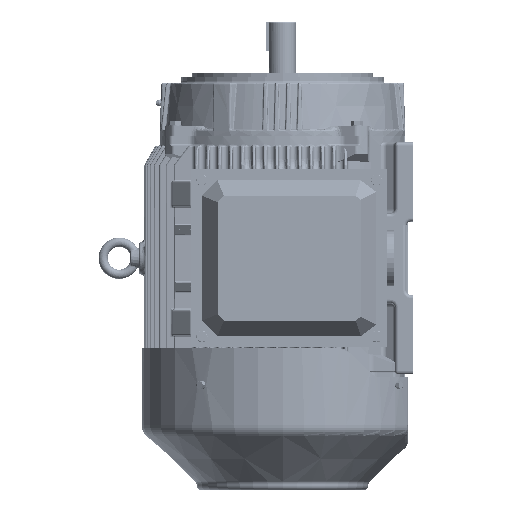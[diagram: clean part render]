
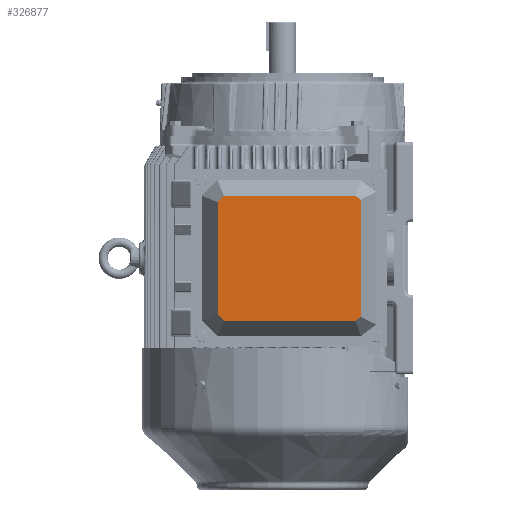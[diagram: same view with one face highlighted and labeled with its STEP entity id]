
A CAD part, left-side view. The second image highlights one B-rep face of the part: STEP entity #326877.
In plain terms, the highlighted planar face has unit normal (-1, 0, 0).
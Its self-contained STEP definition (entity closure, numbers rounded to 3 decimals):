
#4582 = ORIENTED_EDGE ( 'NONE', *, *, #307091, .T. ) ;
#9289 = EDGE_CURVE ( 'NONE', #144245, #30720, #41807, .T. ) ;
#17736 = CARTESIAN_POINT ( 'NONE',  ( -17.165, -5.134, -4.195 ) ) ;
#18449 = ORIENTED_EDGE ( 'NONE', *, *, #9289, .T. ) ;
#20409 = CARTESIAN_POINT ( 'NONE',  ( -17.165, -5.362, -4.026 ) ) ;
#22915 = CARTESIAN_POINT ( 'NONE',  ( -17.165, 4.457, -3.846 ) ) ;
#29862 = CARTESIAN_POINT ( 'NONE',  ( -17.165, -2.005, 4.28 ) ) ;
#30720 = VERTEX_POINT ( 'NONE', #276682 ) ;
#34452 = EDGE_CURVE ( 'NONE', #158960, #282777, #39166, .T. ) ;
#35354 = B_SPLINE_CURVE_WITH_KNOTS ( 'NONE', 3,
 ( #136518, #176894, #391894, #141806 ),
 .UNSPECIFIED., .F., .F.,
 ( 4, 4 ),
 ( 0., 1. ),
 .UNSPECIFIED. ) ;
#38269 = FACE_OUTER_BOUND ( 'NONE', #218269, .T. ) ;
#39166 = B_SPLINE_CURVE_WITH_KNOTS ( 'NONE', 3,
 ( #238305, #357449, #49253, #265421 ),
 .UNSPECIFIED., .F., .F.,
 ( 4, 4 ),
 ( 0., 1. ),
 .UNSPECIFIED. ) ;
#41807 = B_SPLINE_CURVE_WITH_KNOTS ( 'NONE', 3,
 ( #185255, #29862, #367891, #278491 ),
 .UNSPECIFIED., .F., .F.,
 ( 4, 4 ),
 ( 0., 1. ),
 .UNSPECIFIED. ) ;
#45365 = B_SPLINE_CURVE_WITH_KNOTS ( 'NONE', 3,
 ( #55278, #141883, #235094, #22915 ),
 .UNSPECIFIED., .F., .F.,
 ( 4, 4 ),
 ( 0., 1. ),
 .UNSPECIFIED. ) ;
#49253 = CARTESIAN_POINT ( 'NONE',  ( -17.165, -5.362, 1.342 ) ) ;
#52399 = DIRECTION ( 'NONE',  ( 0., 0., 1. ) ) ;
#54975 = CARTESIAN_POINT ( 'NONE',  ( -17.165, -5.019, 4.28 ) ) ;
#55278 = CARTESIAN_POINT ( 'NONE',  ( -17.165, 4.457, 3.846 ) ) ;
#64267 = CARTESIAN_POINT ( 'NONE',  ( -17.165, -5.362, 4.026 ) ) ;
#65981 = CARTESIAN_POINT ( 'NONE',  ( -17.165, 4.023, -4.28 ) ) ;
#69604 = VERTEX_POINT ( 'NONE', #102643 ) ;
#88831 = CARTESIAN_POINT ( 'NONE',  ( -17.165, -0.453, 0. ) ) ;
#91639 = CARTESIAN_POINT ( 'NONE',  ( -17.165, 1.009, -4.28 ) ) ;
#93720 = ORIENTED_EDGE ( 'NONE', *, *, #386278, .T. ) ;
#102643 = CARTESIAN_POINT ( 'NONE',  ( -17.165, 4.457, 3.846 ) ) ;
#107009 = CARTESIAN_POINT ( 'NONE',  ( -17.165, -5.019, -4.28 ) ) ;
#122694 = CARTESIAN_POINT ( 'NONE',  ( -17.165, -5.019, -4.28 ) ) ;
#132675 = VERTEX_POINT ( 'NONE', #161824 ) ;
#136518 = CARTESIAN_POINT ( 'NONE',  ( -17.165, -5.362, 4.026 ) ) ;
#141806 = CARTESIAN_POINT ( 'NONE',  ( -17.165, -5.019, 4.28 ) ) ;
#141883 = CARTESIAN_POINT ( 'NONE',  ( -17.165, 4.457, 1.282 ) ) ;
#144245 = VERTEX_POINT ( 'NONE', #54975 ) ;
#153947 = CARTESIAN_POINT ( 'NONE',  ( -17.165, 4.168, -4.135 ) ) ;
#158960 = VERTEX_POINT ( 'NONE', #368252 ) ;
#161824 = CARTESIAN_POINT ( 'NONE',  ( -17.165, 4.457, -3.846 ) ) ;
#176894 = CARTESIAN_POINT ( 'NONE',  ( -17.165, -5.248, 4.11 ) ) ;
#179604 = CARTESIAN_POINT ( 'NONE',  ( -17.165, 4.023, -4.28 ) ) ;
#185255 = CARTESIAN_POINT ( 'NONE',  ( -17.165, -5.019, 4.28 ) ) ;
#185895 = CARTESIAN_POINT ( 'NONE',  ( -17.165, 4.168, 4.135 ) ) ;
#191073 = ORIENTED_EDGE ( 'NONE', *, *, #287094, .T. ) ;
#197511 = EDGE_CURVE ( 'NONE', #370820, #158960, #379763, .T. ) ;
#214355 = CARTESIAN_POINT ( 'NONE',  ( -17.165, 4.312, 3.991 ) ) ;
#218269 = EDGE_LOOP ( 'NONE', ( #191073, #260228, #93720, #244777, #354746, #387819, #18449, #4582 ) ) ;
#220159 = CARTESIAN_POINT ( 'NONE',  ( -17.165, 4.312, -3.991 ) ) ;
#235094 = CARTESIAN_POINT ( 'NONE',  ( -17.165, 4.457, -1.282 ) ) ;
#238305 = CARTESIAN_POINT ( 'NONE',  ( -17.165, -5.362, -4.026 ) ) ;
#244777 = ORIENTED_EDGE ( 'NONE', *, *, #197511, .T. ) ;
#260228 = ORIENTED_EDGE ( 'NONE', *, *, #318630, .T. ) ;
#265421 = CARTESIAN_POINT ( 'NONE',  ( -17.165, -5.362, 4.026 ) ) ;
#276495 = CARTESIAN_POINT ( 'NONE',  ( -17.165, 4.457, 3.846 ) ) ;
#276682 = CARTESIAN_POINT ( 'NONE',  ( -17.165, 4.023, 4.28 ) ) ;
#278491 = CARTESIAN_POINT ( 'NONE',  ( -17.165, 4.023, 4.28 ) ) ;
#282777 = VERTEX_POINT ( 'NONE', #64267 ) ;
#287094 = EDGE_CURVE ( 'NONE', #69604, #132675, #45365, .T. ) ;
#296534 = B_SPLINE_CURVE_WITH_KNOTS ( 'NONE', 3,
 ( #306766, #220159, #153947, #65981 ),
 .UNSPECIFIED., .F., .F.,
 ( 4, 4 ),
 ( 0., 1. ),
 .UNSPECIFIED. ) ;
#305122 = DIRECTION ( 'NONE',  ( -1., 0., 0. ) ) ;
#306766 = CARTESIAN_POINT ( 'NONE',  ( -17.165, 4.457, -3.846 ) ) ;
#307091 = EDGE_CURVE ( 'NONE', #30720, #69604, #352621, .T. ) ;
#318630 = EDGE_CURVE ( 'NONE', #132675, #323366, #296534, .T. ) ;
#323366 = VERTEX_POINT ( 'NONE', #328342 ) ;
#326877 = ADVANCED_FACE ( 'NONE', ( #38269 ), #361978, .T. ) ;
#328004 = EDGE_CURVE ( 'NONE', #282777, #144245, #35354, .T. ) ;
#328342 = CARTESIAN_POINT ( 'NONE',  ( -17.165, 4.023, -4.28 ) ) ;
#333781 = AXIS2_PLACEMENT_3D ( 'NONE', #88831, #305122, #52399 ) ;
#339068 = CARTESIAN_POINT ( 'NONE',  ( -17.165, -2.005, -4.28 ) ) ;
#352621 = B_SPLINE_CURVE_WITH_KNOTS ( 'NONE', 3,
 ( #371159, #185895, #214355, #276495 ),
 .UNSPECIFIED., .F., .F.,
 ( 4, 4 ),
 ( 0., 1. ),
 .UNSPECIFIED. ) ;
#354746 = ORIENTED_EDGE ( 'NONE', *, *, #34452, .T. ) ;
#357449 = CARTESIAN_POINT ( 'NONE',  ( -17.165, -5.362, -1.342 ) ) ;
#359712 = CARTESIAN_POINT ( 'NONE',  ( -17.165, -5.248, -4.11 ) ) ;
#361978 = PLANE ( 'NONE',  #333781 ) ;
#367891 = CARTESIAN_POINT ( 'NONE',  ( -17.165, 1.009, 4.28 ) ) ;
#368252 = CARTESIAN_POINT ( 'NONE',  ( -17.165, -5.362, -4.026 ) ) ;
#370820 = VERTEX_POINT ( 'NONE', #372187 ) ;
#371159 = CARTESIAN_POINT ( 'NONE',  ( -17.165, 4.023, 4.28 ) ) ;
#372187 = CARTESIAN_POINT ( 'NONE',  ( -17.165, -5.019, -4.28 ) ) ;
#376617 = B_SPLINE_CURVE_WITH_KNOTS ( 'NONE', 3,
 ( #179604, #91639, #339068, #122694 ),
 .UNSPECIFIED., .F., .F.,
 ( 4, 4 ),
 ( 0., 1. ),
 .UNSPECIFIED. ) ;
#379763 = B_SPLINE_CURVE_WITH_KNOTS ( 'NONE', 3,
 ( #107009, #17736, #359712, #20409 ),
 .UNSPECIFIED., .F., .F.,
 ( 4, 4 ),
 ( 0., 1. ),
 .UNSPECIFIED. ) ;
#386278 = EDGE_CURVE ( 'NONE', #323366, #370820, #376617, .T. ) ;
#387819 = ORIENTED_EDGE ( 'NONE', *, *, #328004, .T. ) ;
#391894 = CARTESIAN_POINT ( 'NONE',  ( -17.165, -5.134, 4.195 ) ) ;
